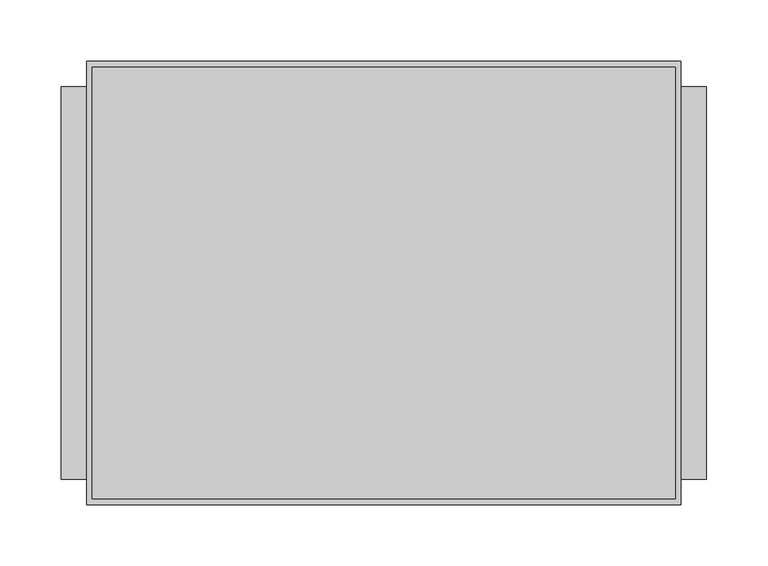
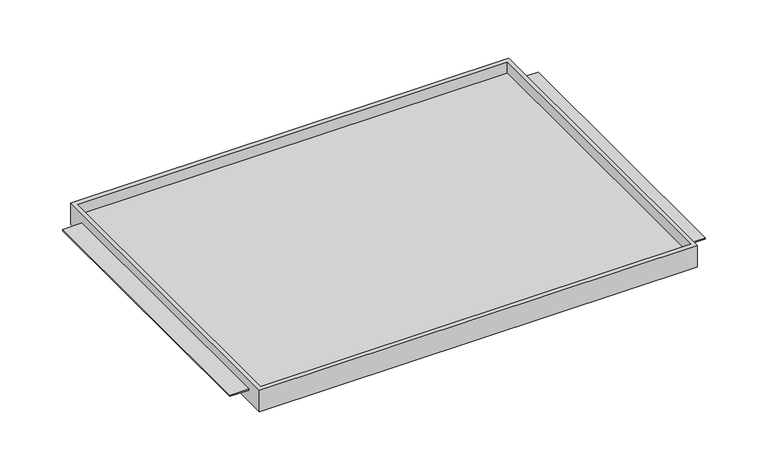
"""IFC4 building model written with IfcOpenShell, lengths in millimetres: furniture geometry."""

from ifc_helpers import new_model, si_unit, origin, place, context, project, spatial, faceted_brep, source, transform, mapped, element, save


def furniture_597c964e(model_context):
    return source(origin(), model_context, "Body", "Brep", [
        faceted_brep([(-242.7689646, -180.975, 1054.0111), (242.7689646, -180.975, 1054.0111), (242.7689646, -180.975, 1079.4111), (-242.7689646, -180.975, 1079.4111), (-242.7689646, 180.975, 1054.0111), (-242.7689646, 180.975, 1079.4111), (242.7689646, 180.975, 1079.4111), (242.7689646, 180.975, 1054.0111), (242.7689646, -160.3374879, 1068.3113), (242.7689646, 160.3374879, 1068.3113), (242.7689646, 160.3374879, 1066.7111), (242.7689646, -160.3374879, 1066.7111), (238.125, -176.2125, 1079.4111), (-238.125, -176.2125, 1079.4111), (-238.125, 175.91278, 1079.4111), (238.125, 175.91278, 1079.4111), (-242.7689646, 160.3374879, 1068.3113), (-242.7689646, -160.3374879, 1068.3113), (-242.7689646, -160.3374879, 1066.7111), (-242.7689646, 160.3374879, 1066.7111), (-238.125, -176.2125, 1066.7111), (238.125, -176.2125, 1066.7111), (238.125, 175.91278, 1066.7111), (-238.125, 175.91278, 1066.7111), (-263.525, 160.3374879, 1068.3113), (-263.525, -160.3374879, 1068.3113), (263.525, -160.3374879, 1068.3113), (263.525, 160.3374879, 1068.3113), (-263.525, -160.3374879, 1066.7111), (-263.525, 160.3374879, 1066.7111), (263.525, -160.3374879, 1066.7111), (263.525, 160.3374879, 1066.7111)], [[[0, 1, 2, 3]], [[4, 5, 6, 7]], [[1, 0, 4, 7]], [[2, 1, 7, 6], [8, 9, 10, 11]], [[3, 2, 6, 5], [12, 13, 14, 15]], [[0, 3, 5, 4], [16, 17, 18, 19]], [[20, 21, 22, 23]], [[21, 20, 13, 12]], [[22, 21, 12, 15]], [[23, 22, 15, 14]], [[20, 23, 14, 13]], [[16, 24, 25, 17]], [[26, 27, 9, 8]], [[18, 28, 29, 19]], [[30, 11, 10, 31]], [[24, 16, 19, 29]], [[25, 24, 29, 28]], [[17, 25, 28, 18]], [[27, 26, 30, 31]], [[9, 27, 31, 10]], [[26, 8, 11, 30]]]),
    ])


if __name__ == "__main__":
    model = new_model("IFC4")
    model_context = context("Model", 3, world=origin())
    ifc_project = project(units=[si_unit("LENGTHUNIT", "METRE", prefix="MILLI")], contexts=[model_context])
    site = spatial("IfcSite", under=ifc_project)
    building = spatial("IfcBuilding", under=site)
    placement = place(None, origin())
    furniture_shape = furniture_597c964e(model_context)
    element("IfcFurniture", 1, ObjectType="HermanMiller_CoStruc_CO203_CTrayShelf : 14\"D x 20\"W", at=placement, inside=building, context=model_context, shape_type="MappedRepresentation", body=[
        mapped(furniture_shape, transform((0.0, 0.0, 0.0), x_axis=(1.0, 0.0, 0.0), y_axis=(0.0, 1.0, 0.0), z_axis=(0.0, 0.0, 1.0))),
    ])
    save(model, "model.ifc")
